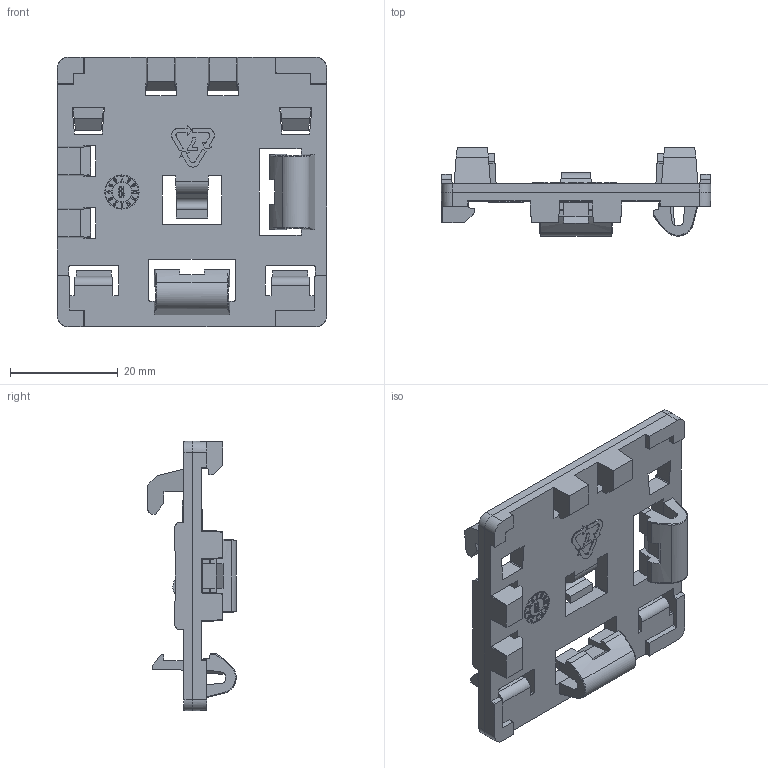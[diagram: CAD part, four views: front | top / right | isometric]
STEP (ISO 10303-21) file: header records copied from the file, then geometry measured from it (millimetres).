
FILE_DESCRIPTION((''),'2;1');
FILE_NAME('0000003750','2019-11-19T',('esors'),(''),'CREO PARAMETRIC BY PTC INC, 2015290','CREO PARAMETRIC BY PTC INC, 2015290','');
FILE_SCHEMA(('AUTOMOTIVE_DESIGN { 1 0 10303 214 1 1 1 1 }'));
Length unit declared in the file: millimetre
Products named in the file (1): 0000003750
Bounding box: 50 x 16.4 x 50 mm (x, y, z)
Volume: 8428.5 mm3; surface area: 7995.6 mm2
Topology: 1 solids, 1 shells, 1041 faces, 2979 edges, 1977 vertices
Faces by surface type: plane 816, cylinder 128, extrusion 89, bspline 8
Entity records: 45356 total; most frequent: CARTESIAN_POINT 8214, ORIENTED_EDGE 5958, DIRECTION 4567, PRESENTATION_STYLE_ASSIGNMENT 2980, STYLED_ITEM 2980, CURVE_STYLE 2979, EDGE_CURVE 2979, VECTOR 2615
